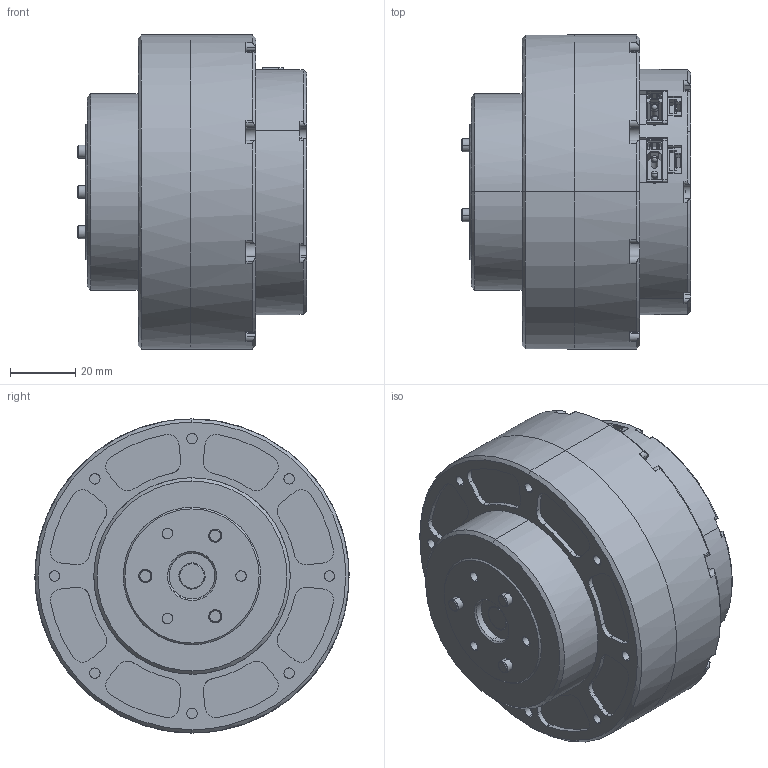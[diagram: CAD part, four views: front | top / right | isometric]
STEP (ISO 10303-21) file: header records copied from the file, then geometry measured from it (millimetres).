
FILE_DESCRIPTION (( 'STEP AP203' ), '1' );
FILE_NAME ('PDA-45.STEP', '2023-06-28T02:40:23', ( '' ), ( '' ), 'SwSTEP 2.0', 'SolidWorks 2020', '' );
FILE_SCHEMA (( 'CONFIG_CONTROL_DESIGN' ));
Products named in the file (5): GIM8108-PA- v1.0.2_NOBAT_release_20230418; PDA-45; GIM8108-PA- v1.0.1_NOBAT_release_20230104.step; GIM8115-36; 綴裔
Assembly tree (4 placements, depth 2):
  PDA-45
    GIM8115-36
    GIM8108-PA- v1.0.1_NOBAT_release_20230104.step
    綴裔
    GIM8108-PA- v1.0.2_NOBAT_release_20230418
Bounding box: 70 x 96 x 96 mm (x, y, z)
Volume: 318309.9 mm3; surface area: 73993.5 mm2
Topology: 174 solids, 566 shells, 8829 faces, 25540 edges, 17593 vertices
Faces by surface type: plane 6642, cylinder 1628, bspline 421, cone 53, sphere 49, torus 36
Entity records: 329972 total; most frequent: CARTESIAN_POINT 106732, ORIENTED_EDGE 45041, DIRECTION 41403, EDGE_CURVE 25481, LINE 19443, VECTOR 19443, VERTEX_POINT 17575, AXIS2_PLACEMENT_3D 10980
